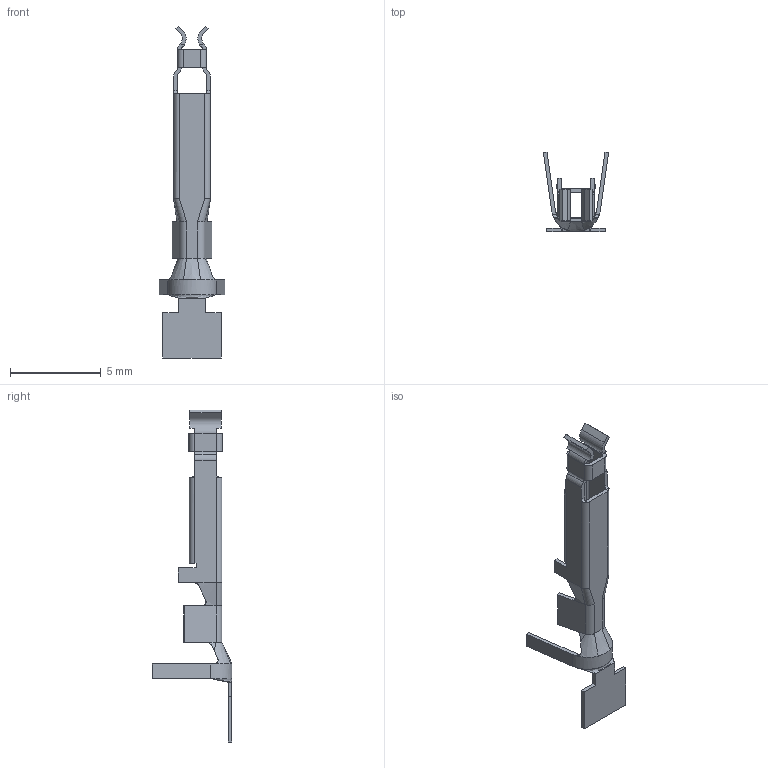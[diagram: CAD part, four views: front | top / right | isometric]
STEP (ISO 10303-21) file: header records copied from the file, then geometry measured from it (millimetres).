
FILE_DESCRIPTION (( 'STEP AP214' ), '1' );
FILE_NAME ('24796r1.STEP', '2011-07-11T14:16:53', ( 'Vicor User' ), ( 'Microsoft' ), 'SwSTEP 2.0', 'SolidWorks 2010', '' );
FILE_SCHEMA (( 'AUTOMOTIVE_DESIGN' ));
Length unit declared in the file: inch
Products named in the file (1): 24796r1
Bounding box: 3.6 x 4.4 x 18.3 mm (x, y, z)
Volume: 17.9 mm3; surface area: 187.8 mm2
Topology: 1 solids, 1 shells, 162 faces, 434 edges, 268 vertices
Faces by surface type: plane 90, cylinder 50, bspline 22
Entity records: 5798 total; most frequent: CARTESIAN_POINT 1826, ORIENTED_EDGE 868, DIRECTION 750, EDGE_CURVE 434, LINE 302, VECTOR 302, VERTEX_POINT 268, AXIS2_PLACEMENT_3D 224
